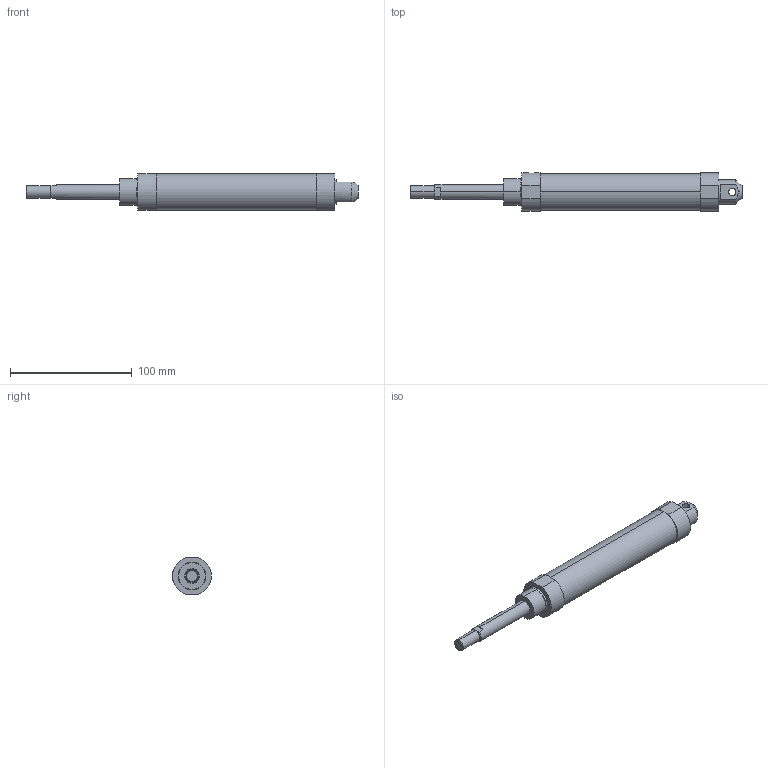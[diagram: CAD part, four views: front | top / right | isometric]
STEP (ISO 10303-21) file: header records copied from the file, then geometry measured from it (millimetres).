
FILE_DESCRIPTION (( 'STEP AP203' ), '1' );
FILE_NAME ('J#0-25-50-C.STEP', '2016-03-08T06:36:30', ( '' ), ( '' ), 'SwSTEP 2.0', 'SolidWorks 2014', '' );
FILE_SCHEMA (( 'CONFIG_CONTROL_DESIGN' ));
Length unit declared in the file: millimetre
Products named in the file (1): J#0-25-50-C
Bounding box: 273 x 32 x 30 mm (x, y, z)
Volume: 134241.6 mm3; surface area: 22614.1 mm2
Topology: 1 solids, 1 shells, 51 faces, 118 edges, 74 vertices
Faces by surface type: plane 25, cylinder 20, cone 6
Entity records: 1631 total; most frequent: CARTESIAN_POINT 362, DIRECTION 264, ORIENTED_EDGE 236, EDGE_CURVE 118, AXIS2_PLACEMENT_3D 104, VERTEX_POINT 74, EDGE_LOOP 58, VECTOR 56
